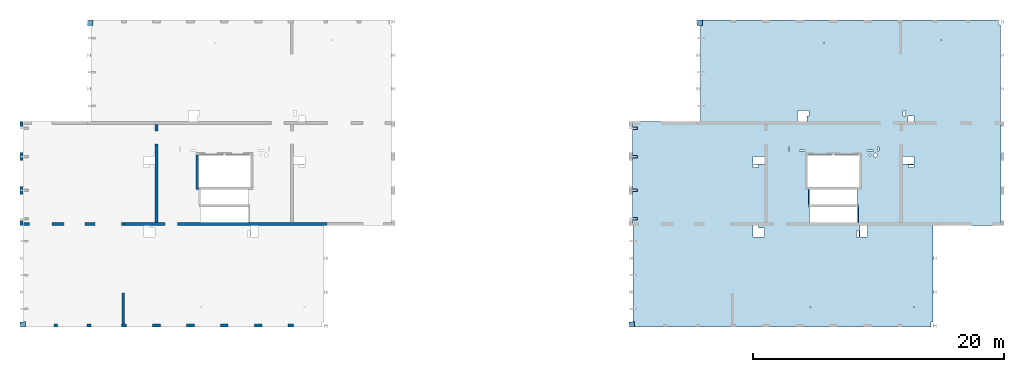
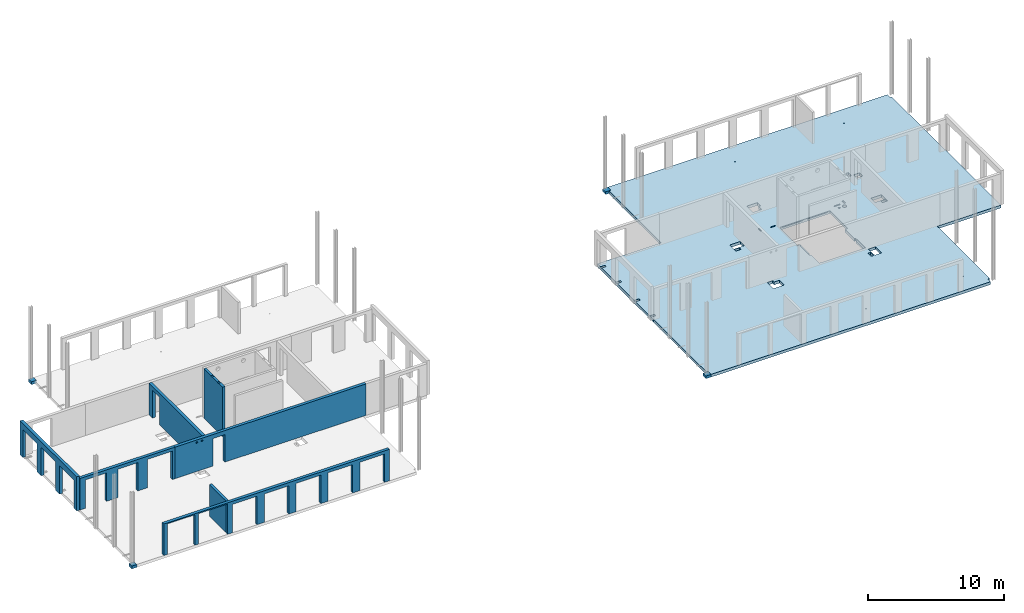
# One storey, part 6 of 10: 7 walls, 5 slabs, 53 openings.
"""IFC2X3 building model written with IfcOpenShell, lengths in millimetres."""

from ifc_helpers import new_model, entity, si_unit, converted_unit, derived_unit, direction, frame, frame_2d, origin, origin_2d_with_axis, place, context, subcontext, project, spatial, polyline, rectangle, circle, outline, extrude, material, layer, layer_set, layer_usage, type_object, element, save


model = new_model("IFC2X3")

# Units and contexts
model_context = context("Model", 3, precision=0.01, world=origin(), true_north=direction((6.12303176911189e-17, 1.0)))
body_context = subcontext(model_context, "Body", "Model", "MODEL_VIEW")
ifc_project = project(units=[si_unit("LENGTHUNIT", "METRE", prefix="MILLI"), si_unit("AREAUNIT", "SQUARE_METRE"), si_unit("VOLUMEUNIT", "CUBIC_METRE"), converted_unit("PLANEANGLEUNIT", "DEGREE", entity("IfcRatioMeasure", 0.0174532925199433), si_unit("PLANEANGLEUNIT", "RADIAN"), dimensions=[0, 0, 0, 0, 0, 0, 0]), si_unit("MASSUNIT", "GRAM", prefix="KILO"), derived_unit("MASSDENSITYUNIT", [(si_unit("MASSUNIT", "GRAM", prefix="KILO"), 1), (si_unit("LENGTHUNIT", "METRE"), -3)]), si_unit("TIMEUNIT", "SECOND"), si_unit("FREQUENCYUNIT", "HERTZ"), si_unit("THERMODYNAMICTEMPERATUREUNIT", "DEGREE_CELSIUS"), derived_unit("THERMALTRANSMITTANCEUNIT", [(si_unit("MASSUNIT", "GRAM", prefix="KILO"), 1), (si_unit("THERMODYNAMICTEMPERATUREUNIT", "KELVIN"), -1), (si_unit("TIMEUNIT", "SECOND"), -3)]), derived_unit("VOLUMETRICFLOWRATEUNIT", [(si_unit("LENGTHUNIT", "METRE"), 3), (si_unit("TIMEUNIT", "SECOND"), -1)]), si_unit("ELECTRICCURRENTUNIT", "AMPERE"), si_unit("ELECTRICVOLTAGEUNIT", "VOLT"), si_unit("POWERUNIT", "WATT"), si_unit("FORCEUNIT", "NEWTON", prefix="KILO"), si_unit("ILLUMINANCEUNIT", "LUX"), si_unit("LUMINOUSFLUXUNIT", "LUMEN"), si_unit("LUMINOUSINTENSITYUNIT", "CANDELA"), derived_unit("USERDEFINED", [(si_unit("MASSUNIT", "GRAM", prefix="KILO"), -1), (si_unit("LENGTHUNIT", "METRE"), -2), (si_unit("TIMEUNIT", "SECOND"), 3), (si_unit("LUMINOUSFLUXUNIT", "LUMEN"), 1)]), derived_unit("LINEARVELOCITYUNIT", [(si_unit("LENGTHUNIT", "METRE"), 1), (si_unit("TIMEUNIT", "SECOND"), -1)]), si_unit("PRESSUREUNIT", "PASCAL"), derived_unit("USERDEFINED", [(si_unit("LENGTHUNIT", "METRE"), -2), (si_unit("MASSUNIT", "GRAM", prefix="KILO"), 1), (si_unit("TIMEUNIT", "SECOND"), -2)])], contexts=[model_context])

# Site, building, storey
site_placement = place(None, origin())
site = spatial("IfcSite", under=ifc_project, at=site_placement, Name="Default", CompositionType="ELEMENT")
building_placement = place(site_placement, origin())
building = spatial("IfcBuilding", under=site, at=building_placement, Name="niet gebruiken", CompositionType="ELEMENT")
storey_placement = place(building_placement, frame((0.0, 0.0, 63090.0)))
storey = spatial("IfcBuildingStorey", under=building, at=storey_placement, Name="21 eenentwintigste verdieping", CompositionType="ELEMENT", Elevation=63090.0)

# Slab, openings
ifc_material_1 = material(Name="NLRS_f2_beton ihwg")
ifc_layer_1 = layer(ifc_material_1, 250.0)
ifc_layer_set_1 = layer_set([ifc_layer_1], Name="Floor:NLRS_23.21_FL_beton ihwg d=250_gen")
ifc_layer_usage_1 = layer_usage(ifc_layer_set_1, "AXIS3", "POSITIVE", 0.0)
slab_1_placement = place(storey_placement, frame((75770.0, 28756.0, -340.0)))
slab_1 = element("IfcSlab", 1, at=slab_1_placement, inside=storey, material=ifc_layer_usage_1, Name="Floor:NLRS_23.21_FL_beton ihwg d=250_gen", ObjectType="Floor:NLRS_23.21_FL_beton ihwg d=250_gen", PredefinedType="FLOOR", context=body_context, shape_type="SweptSolid", body=[
    extrude(outline(polyline([(9130.0, 12250.0), (-14530.0, 12250.0), (-14530.0, 11840.0), (-14670.0000329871, 11840.0), (-14670.0000329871, 4150.0), (-14690.0, 4150.0), (-14690.0, -4150.0), (-9290.0, -4150.0), (-9290.0, -11840.0), (-9130.0, -11840.0), (-9130.0, -12250.0), (14530.0, -12250.0), (14530.0, -11820.0), (14670.0, -11820.0), (14670.0, -4040.0), (14690.0, -4040.0), (14690.0, 4150.0), (9290.0, 4150.0), (9290.0, 11820.0), (9130.0, 11820.0), (9130.0, 12250.0)])), frame((14690.0, 12250.0, 250.0), z_axis=(0.0, 0.0, -1.0), x_axis=(-1.0, 0.0, 0.0)), (0.0, 0.0, 1.0), 250.000000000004),
])
opening_1_placement = place(storey_placement, frame((75770.0, 28756.0, -340.0)))
element("IfcOpeningElement", 2, at=opening_1_placement, cuts=slab_1, ObjectType="Opening", context=body_context, shape_type="SweptSolid", body=[
    extrude(circle(Radius=37.5, at=frame_2d((-7740.0, -10650.0), x_axis=(1.0, 0.0))), frame((14690.0, 12250.0, 250.0), z_axis=(0.0, 0.0, -1.0), x_axis=(-1.0, 0.0, 0.0)), (0.0, 0.0, 1.0), 250.000000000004),
])
opening_2_placement = place(storey_placement, frame((75770.0, 28756.0, -340.0)))
element("IfcOpeningElement", 3, at=opening_2_placement, cuts=slab_1, ObjectType="Opening", context=body_context, shape_type="SweptSolid", body=[
    extrude(circle(Radius=37.5, at=frame_2d((-9940.0, 10650.0), x_axis=(1.0, 0.0))), frame((14690.0, 12250.0, 250.0), z_axis=(0.0, 0.0, -1.0), x_axis=(-1.0, 0.0, 0.0)), (0.0, 0.0, 1.0), 250.000000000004),
])
opening_3_placement = place(storey_placement, frame((75770.0, 28756.0, -340.0)))
element("IfcOpeningElement", 4, at=opening_3_placement, cuts=slab_1, ObjectType="Opening", context=body_context, shape_type="SweptSolid", body=[
    extrude(circle(Radius=37.5, at=frame_2d((-590.0, 10400.0), x_axis=(1.0, 0.0))), frame((14690.0, 12250.0, 250.0), z_axis=(0.0, 0.0, -1.0), x_axis=(-1.0, 0.0, 0.0)), (0.0, 0.0, 1.0), 250.000000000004),
])
opening_4_placement = place(storey_placement, frame((75770.0, 28756.0, -340.0)))
element("IfcOpeningElement", 5, at=opening_4_placement, cuts=slab_1, ObjectType="Opening", context=body_context, shape_type="SweptSolid", body=[
    extrude(circle(Radius=37.5, at=frame_2d((510.0, -10650.0), x_axis=(1.0, 0.0))), frame((14690.0, 12250.0, 250.0), z_axis=(0.0, 0.0, -1.0), x_axis=(-1.0, 0.0, 0.0)), (0.0, 0.0, 1.0), 250.000000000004),
])
opening_5_placement = place(slab_1_placement, origin())
element("IfcOpeningElement", 6, at=opening_5_placement, cuts=slab_1, ObjectType="Opening", context=body_context, shape_type="SweptSolid", body=[
    extrude(rectangle(XDim=109.999999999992, YDim=1220.0, at=origin_2d_with_axis()), frame((14074.999934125, 10380.0, 210.0)), (0.0, 0.0, 1.0), 39.9999999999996),
])
opening_6_placement = place(slab_1_placement, origin())
element("IfcOpeningElement", 7, at=opening_6_placement, cuts=slab_1, ObjectType="Opening", context=body_context, shape_type="SweptSolid", body=[
    extrude(rectangle(XDim=109.999999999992, YDim=1220.0, at=origin_2d_with_axis()), frame((17985.0, 8960.0, 210.0)), (0.0, 0.0, 1.0), 39.9999999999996),
])
opening_7_placement = place(slab_1_placement, origin())
element("IfcOpeningElement", 8, at=opening_7_placement, cuts=slab_1, ObjectType="Opening", context=body_context, shape_type="SweptSolid", body=[
    extrude(rectangle(XDim=199.999999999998, YDim=400.000000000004, at=origin_2d_with_axis()), frame((200.0, 13600.0, 220.0), z_axis=(0.0, 0.0, 1.0), x_axis=(0.0, -1.0, 0.0)), (0.0, 0.0, 1.0), 30.0000000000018),
])
opening_8_placement = place(slab_1_placement, origin())
element("IfcOpeningElement", 9, at=opening_8_placement, cuts=slab_1, ObjectType="Opening", context=body_context, shape_type="SweptSolid", body=[
    extrude(rectangle(XDim=199.999999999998, YDim=400.000000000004, at=origin_2d_with_axis()), frame((200.0, 10900.0, 220.0), z_axis=(0.0, 0.0, 1.0), x_axis=(0.0, -1.0, 0.0)), (0.0, 0.0, 1.0), 30.0000000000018),
])
opening_9_placement = place(slab_1_placement, origin())
element("IfcOpeningElement", 10, at=opening_9_placement, cuts=slab_1, ObjectType="Opening", context=body_context, shape_type="SweptSolid", body=[
    extrude(rectangle(XDim=200.000000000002, YDim=400.000000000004, at=origin_2d_with_axis()), frame((200.0, 8630.0, 220.0), z_axis=(0.0, 0.0, 1.0), x_axis=(0.0, -1.0, 0.0)), (0.0, 0.0, 1.0), 30.0000000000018),
])
opening_10_placement = place(slab_1_placement, origin())
element("IfcOpeningElement", 11, at=opening_10_placement, cuts=slab_1, ObjectType="Opening", context=body_context, shape_type="SweptSolid", body=[
    extrude(rectangle(XDim=400.000000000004, YDim=199.999999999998, at=origin_2d_with_axis()), frame((200.0, 15870.0, 220.0)), (0.0, 0.0, 1.0), 30.0000000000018),
])
opening_11_placement = place(slab_1_placement, origin())
element("IfcOpeningElement", 12, at=opening_11_placement, cuts=slab_1, ObjectType="Opening", context=body_context, shape_type="SweptSolid", body=[
    extrude(rectangle(XDim=900.000000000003, YDim=730.000000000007, at=origin_2d_with_axis()), frame((13530.0, 16850.0, 0.0), z_axis=(0.0, 0.0, 1.0), x_axis=(0.0, 1.0, 0.0)), (0.0, 0.0, 1.0), 250.000000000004),
])
opening_12_placement = place(slab_1_placement, origin())
element("IfcOpeningElement", 13, at=opening_12_placement, cuts=slab_1, ObjectType="Opening", context=body_context, shape_type="SweptSolid", body=[
    extrude(rectangle(XDim=169.999999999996, YDim=450.000000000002, at=origin_2d_with_axis()), frame((13980.0, 17075.0, 0.0), z_axis=(0.0, 0.0, 1.0), x_axis=(-1.0, 0.0, 0.0)), (0.0, 0.0, 1.0), 250.000000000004),
])
opening_13_placement = place(slab_1_placement, origin())
element("IfcOpeningElement", 14, at=opening_13_placement, cuts=slab_1, ObjectType="Opening", context=body_context, shape_type="SweptSolid", body=[
    extrude(rectangle(XDim=900.000000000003, YDim=700.000000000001, at=origin_2d_with_axis()), frame((10055.0, 7550.0, 0.0), z_axis=(0.0, 0.0, 1.0), x_axis=(-1.0, 0.0, 0.0)), (0.0, 0.0, 1.0), 250.000000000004),
])
opening_14_placement = place(slab_1_placement, origin())
element("IfcOpeningElement", 15, at=opening_14_placement, cuts=slab_1, ObjectType="Opening", context=body_context, shape_type="SweptSolid", body=[
    extrude(rectangle(XDim=200.000000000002, YDim=450.000000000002, at=origin_2d_with_axis()), frame((9830.0, 8000.0, 0.0), z_axis=(0.0, 0.0, 1.0), x_axis=(0.0, -1.0, 0.0)), (0.0, 0.0, 1.0), 250.000000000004),
])
opening_15_placement = place(slab_1_placement, origin())
element("IfcOpeningElement", 16, at=opening_15_placement, cuts=slab_1, ObjectType="Opening", context=body_context, shape_type="SweptSolid", body=[
    extrude(rectangle(XDim=900.000000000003, YDim=600.000000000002, at=origin_2d_with_axis()), frame((10055.0, 13330.0, 0.0), z_axis=(0.0, 0.0, 1.0), x_axis=(-1.0, 0.0, 0.0)), (0.0, 0.0, 1.0), 250.000000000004),
])
opening_16_placement = place(slab_1_placement, origin())
element("IfcOpeningElement", 17, at=opening_16_placement, cuts=slab_1, ObjectType="Opening", context=body_context, shape_type="SweptSolid", body=[
    extrude(rectangle(XDim=450.000000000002, YDim=500.000000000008, at=origin_2d_with_axis()), frame((22205.0, 16625.0, 0.0), z_axis=(0.0, 0.0, 1.0), x_axis=(0.0, 1.0, 0.0)), (0.0, 0.0, 1.0), 250.000000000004),
])
opening_17_placement = place(slab_1_placement, origin())
element("IfcOpeningElement", 18, at=opening_17_placement, cuts=slab_1, ObjectType="Opening", context=body_context, shape_type="SweptSolid", body=[
    extrude(rectangle(XDim=900.000000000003, YDim=600.000000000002, at=origin_2d_with_axis()), frame((18459.9818996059, 7650.0, 0.0), z_axis=(0.0, 0.0, 1.0), x_axis=(0.0, 1.0, 0.0)), (0.0, 0.0, 1.0), 250.000000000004),
])
opening_18_placement = place(slab_1_placement, origin())
element("IfcOpeningElement", 19, at=opening_18_placement, cuts=slab_1, ObjectType="Opening", context=body_context, shape_type="SweptSolid", body=[
    extrude(rectangle(XDim=900.000000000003, YDim=600.000000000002, at=origin_2d_with_axis()), frame((22005.0, 13330.0, 0.0), z_axis=(0.0, 0.0, 1.0), x_axis=(-1.0, 0.0, 0.0)), (0.0, 0.0, 1.0), 250.000000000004),
])
opening_19_placement = place(slab_1_placement, origin())
element("IfcOpeningElement", 20, at=opening_19_placement, cuts=slab_1, ObjectType="Opening", context=body_context, shape_type="SweptSolid", body=[
    extrude(rectangle(XDim=1760.00000000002, YDim=23.0000000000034, at=origin_2d_with_axis()), frame((14974.9998491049, 13751.4999999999, 180.0)), (0.0, 0.0, 1.0), 40.0000000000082),
])
opening_20_placement = place(slab_1_placement, origin())
element("IfcOpeningElement", 21, at=opening_20_placement, cuts=slab_1, ObjectType="Opening", context=body_context, shape_type="SweptSolid", body=[
    extrude(rectangle(XDim=1760.0, YDim=23.0000000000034, at=origin_2d_with_axis()), frame((17084.999849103, 13751.4999999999, 180.0)), (0.0, 0.0, 1.0), 40.0000000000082),
])
opening_21_placement = place(slab_1_placement, origin())
element("IfcOpeningElement", 22, at=opening_21_placement, cuts=slab_1, ObjectType="Opening", context=body_context, shape_type="SweptSolid", body=[
    extrude(rectangle(XDim=99.9999999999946, YDim=340.000000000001, at=origin_2d_with_axis()), frame((12485.0, 14210.0, 0.0), z_axis=(0.0, 0.0, 1.0), x_axis=(-1.0, 0.0, 0.0)), (0.0, 0.0, 1.0), 250.000000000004),
])
opening_22_placement = place(slab_1_placement, origin())
element("IfcOpeningElement", 23, at=opening_22_placement, cuts=slab_1, ObjectType="Opening", context=body_context, shape_type="SweptSolid", body=[
    extrude(rectangle(XDim=100.000000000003, YDim=440.000000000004, at=origin_2d_with_axis()), frame((13535.0, 14090.0, 0.0), z_axis=(0.0, 0.0, 1.0), x_axis=(0.0, -1.0, 0.0)), (0.0, 0.0, 1.0), 250.000000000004),
])
opening_23_placement = place(slab_1_placement, origin())
element("IfcOpeningElement", 24, at=opening_23_placement, cuts=slab_1, ObjectType="Opening", context=body_context, shape_type="SweptSolid", body=[
    extrude(rectangle(XDim=99.9999999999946, YDim=340.000000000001, at=origin_2d_with_axis()), frame((19595.0, 14210.0, 0.0), z_axis=(0.0, 0.0, 1.0), x_axis=(-1.0, 0.0, 0.0)), (0.0, 0.0, 1.0), 250.000000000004),
])
opening_24_placement = place(slab_1_placement, origin())
element("IfcOpeningElement", 25, at=opening_24_placement, cuts=slab_1, ObjectType="Opening", context=body_context, shape_type="SweptSolid", body=[
    extrude(rectangle(XDim=100.000000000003, YDim=489.999999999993, at=origin_2d_with_axis()), frame((18955.0, 14090.0, 0.0), z_axis=(0.0, 0.0, 1.0), x_axis=(0.0, -1.0, 0.0)), (0.0, 0.0, 1.0), 250.000000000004),
])
opening_25_placement = place(slab_1_placement, origin())
element("IfcOpeningElement", 26, at=opening_25_placement, cuts=slab_1, ObjectType="Opening", context=body_context, shape_type="SweptSolid", body=[
    extrude(rectangle(XDim=220.000000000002, YDim=450.000000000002, at=origin_2d_with_axis()), frame((21665.0, 17075.0, 0.0), z_axis=(0.0, 0.0, 1.0), x_axis=(-1.0, 0.0, 0.0)), (0.0, 0.0, 1.0), 250.000000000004),
])
opening_26_placement = place(slab_1_placement, origin())
element("IfcOpeningElement", 27, at=opening_26_placement, cuts=slab_1, ObjectType="Opening", context=body_context, shape_type="SweptSolid", body=[
    extrude(rectangle(XDim=220.000000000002, YDim=450.000000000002, at=origin_2d_with_axis()), frame((22230.0, 12840.0, 0.0), z_axis=(0.0, 0.0, 1.0), x_axis=(0.0, -1.0, 0.0)), (0.0, 0.0, 1.0), 250.000000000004),
])
opening_27_placement = place(slab_1_placement, origin())
element("IfcOpeningElement", 28, at=opening_27_placement, cuts=slab_1, ObjectType="Opening", context=body_context, shape_type="SweptSolid", body=[
    extrude(rectangle(XDim=220.000000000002, YDim=450.000000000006, at=origin_2d_with_axis()), frame((17970.0, 7425.0, 0.0)), (0.0, 0.0, 1.0), 250.000000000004),
])
opening_28_placement = place(slab_1_placement, origin())
element("IfcOpeningElement", 29, at=opening_28_placement, cuts=slab_1, ObjectType="Opening", context=body_context, shape_type="SweptSolid", body=[
    extrude(rectangle(XDim=230.0, YDim=450.000000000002, at=origin_2d_with_axis()), frame((9830.0000865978, 12845.0002270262, 0.0), z_axis=(0.0, 0.0, 1.0), x_axis=(0.0, -1.0, 0.0)), (0.0, 0.0, 1.0), 250.000000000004),
])
opening_29_placement = place(slab_1_placement, origin())
element("IfcOpeningElement", 30, at=opening_29_placement, cuts=slab_1, ObjectType="Opening", context=body_context, shape_type="SweptSolid", body=[
    extrude(circle(Radius=80.0, at=origin_2d_with_axis()), frame((18930.0, 13720.0, 0.0)), (0.0, 0.0, 1.0), 250.000000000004),
])
opening_30_placement = place(slab_1_placement, origin())
element("IfcOpeningElement", 31, at=opening_30_placement, cuts=slab_1, ObjectType="Opening", context=body_context, shape_type="SweptSolid", body=[
    extrude(circle(Radius=157.5, at=origin_2d_with_axis()), frame((19380.0, 13720.0, 0.0)), (0.0, 0.0, 1.0), 250.000000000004),
])
opening_31_placement = place(slab_1_placement, frame((16030.0, 10378.7499999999, 250.0)))
element("IfcOpeningElement", 32, at=opening_31_placement, cuts=slab_1, Name="Floor:NLRS_23.21_FL_beton ihwg d=250_gen:2", ObjectType="Opening", context=body_context, shape_type="SweptSolid", body=[
    extrude(outline(polyline([(-751.250000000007, 1899.99999180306), (-751.250000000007, 2135.00002468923), (-3361.24999999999, 2135.00002468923), (-3361.24999999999, -2134.99997530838), (-751.250000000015, -2134.99997530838), (-751.250000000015, -1900.00004118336), (608.75, -1900.00004118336), (608.75, -1999.99997531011), (808.750000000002, -1999.99997531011), (808.750000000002, -1900.00004118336), (2028.75, -1900.00004118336), (2028.75, 1899.99999180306), (808.750000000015, 1899.99999180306), (808.750000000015, 2000.00002468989), (608.750000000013, 2000.00002468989), (608.750000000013, 1899.99999180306), (-751.250000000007, 1899.99999180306)])), frame((0.0, 0.0, 0.0), z_axis=(0.0, 0.0, 1.0), x_axis=(0.0, -1.0, 0.0)), (0.0, 0.0, -1.0), 250.000000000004),
])

# Slabs
ifc_layer_usage_2 = layer_usage(ifc_layer_set_1, "AXIS3", "POSITIVE", 0.0)
slab_2_placement = place(storey_placement, origin())
element("IfcSlab", 33, at=slab_2_placement, inside=storey, material=ifc_layer_usage_2, Name="Floor:NLRS_23.21_FL_beton ihwg d=250_gen", ObjectType="Floor:NLRS_23.21_FL_beton ihwg d=250_gen", PredefinedType="FLOOR", context=body_context, shape_type="SweptSolid", body=[
    extrude(outline(polyline([(-280.0, -240.0), (130.0, -240.0), (130.0, 50.0), (150.0, 50.0), (150.0, 190.0), (-280.0, 190.0), (-280.0, -240.0)])), frame((27140.0, 29036.0, -90.0), z_axis=(0.0, 0.0, -1.0), x_axis=(0.0, 1.0, 0.0)), (0.0, 0.0, 1.0), 250.000000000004),
])
ifc_layer_usage_3 = layer_usage(ifc_layer_set_1, "AXIS3", "POSITIVE", 0.0)
slab_3_placement = place(storey_placement, origin())
element("IfcSlab", 34, at=slab_3_placement, inside=storey, material=ifc_layer_usage_3, Name="Floor:NLRS_23.21_FL_beton ihwg d=250_gen", ObjectType="Floor:NLRS_23.21_FL_beton ihwg d=250_gen", PredefinedType="FLOOR", context=body_context, shape_type="SweptSolid", body=[
    extrude(outline(polyline([(-280.0, -240.0), (130.0, -240.0), (130.0, 50.0), (150.0, 50.0), (150.0, 190.0), (-280.0, 190.0), (-280.0, -240.0)])), frame((75740.0, 29036.0, -90.0), z_axis=(0.0, 0.0, -1.0), x_axis=(0.0, 1.0, 0.0)), (0.0, 0.0, 1.0), 250.000000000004),
])
ifc_layer_usage_4 = layer_usage(ifc_layer_set_1, "AXIS3", "POSITIVE", 0.0)
slab_4_placement = place(storey_placement, origin())
element("IfcSlab", 35, at=slab_4_placement, inside=storey, material=ifc_layer_usage_4, Name="Floor:NLRS_23.21_FL_beton ihwg d=250_gen", ObjectType="Floor:NLRS_23.21_FL_beton ihwg d=250_gen", PredefinedType="FLOOR", context=body_context, shape_type="SweptSolid", body=[
    extrude(rectangle(XDim=430.00000000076, YDim=429.999999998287, at=frame_2d((4.33431068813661e-12, 2.17426077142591e-12), x_axis=(1.0, 0.0))), frame((32515.0, 53041.0, -90.0), z_axis=(0.0, 0.0, -1.0), x_axis=(0.0, 1.0, 0.0)), (0.0, 0.0, 1.0), 250.000000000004),
])
ifc_layer_usage_5 = layer_usage(ifc_layer_set_1, "AXIS3", "POSITIVE", 0.0)
slab_5_placement = place(storey_placement, origin())
element("IfcSlab", 36, at=slab_5_placement, inside=storey, material=ifc_layer_usage_5, Name="Floor:NLRS_23.21_FL_beton ihwg d=250_gen", ObjectType="Floor:NLRS_23.21_FL_beton ihwg d=250_gen", PredefinedType="FLOOR", context=body_context, shape_type="SweptSolid", body=[
    extrude(rectangle(XDim=430.00000000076, YDim=429.999999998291, at=frame_2d((-4.33431068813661e-12, -8.66862137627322e-12), x_axis=(1.0, 0.0))), frame((81115.0, 53041.0, -90.0), z_axis=(0.0, 0.0, -1.0), x_axis=(0.0, 1.0, 0.0)), (0.0, 0.0, 1.0), 250.000000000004),
])

# Wall, opening
ifc_layer_2 = layer(ifc_material_1, 250.0)
ifc_layer_set_2 = layer_set([ifc_layer_2], Name="Basic Wall:NLRS_22.21_WA_beton ihwg d=250_gen")
ifc_layer_usage_6 = layer_usage(ifc_layer_set_2, "AXIS2", "NEGATIVE", 125.0)
wall_type_1 = type_object("IfcWallType", Name="Basic Wall:NLRS_22.21_WA_beton ihwg d=250_gen", PredefinedType="STANDARD", material=ifc_layer_set_2)
wall_1_placement = place(storey_placement, frame((37800.0, 44906.0, -90.0), z_axis=(0.0, 0.0, 1.0), x_axis=(0.0, -1.0, 0.0)))
wall_1 = element("IfcWallStandardCase", 37, at=wall_1_placement, inside=storey, type_object=wall_type_1, material=ifc_layer_usage_6, Name="Basic Wall:NLRS_22.21_WA_beton ihwg d=250_gen", ObjectType="Basic Wall:NLRS_22.21_WA_beton ihwg d=250_gen", context=body_context, shape_type="SweptSolid", body=[
    extrude(rectangle(XDim=7799.99999999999, YDim=250.000000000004, at=frame_2d((3900.0, 0.0), x_axis=(-1.0, 0.0))), origin(), (0.0, 0.0, 1.0), 2820.00000000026),
])
opening_32_placement = place(wall_1_placement, origin())
element("IfcOpeningElement", 38, at=opening_32_placement, cuts=wall_1, Name="Basic Wall:NLRS_22.21_WA_beton ihwg d=250_gen", ObjectType="Opening", context=body_context, shape_type="SweptSolid", body=[
    extrude(rectangle(XDim=2470.0, YDim=1006.0, at=frame_2d((4.43378667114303e-12, 0.0), x_axis=(1.0, 0.0))), frame((1027.0, -1649.0, 1235.0), z_axis=(0.0, 1.0, 0.0), x_axis=(0.0, 0.0, 1.0)), (0.0, 0.0, 1.0), 3048.0),
])

# Wall, openings
ifc_layer_usage_7 = layer_usage(ifc_layer_set_2, "AXIS2", "NEGATIVE", 125.0)
wall_2_placement = place(storey_placement, frame((27170.0, 36981.0, -90.0)))
wall_2 = element("IfcWallStandardCase", 39, at=wall_2_placement, inside=storey, type_object=wall_type_1, material=ifc_layer_usage_7, Name="Basic Wall:NLRS_22.21_WA_beton ihwg d=250_gen", ObjectType="Basic Wall:NLRS_22.21_WA_beton ihwg d=250_gen", context=body_context, shape_type="SweptSolid", body=[
    extrude(rectangle(XDim=8060.0, YDim=250.000000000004, at=frame_2d((4030.0, 0.0), x_axis=(-1.0, 0.0))), origin(), (0.0, 0.0, 1.0), 2820.00000000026),
])
opening_33_placement = place(wall_2_placement, origin())
element("IfcOpeningElement", 40, at=opening_33_placement, cuts=wall_2, Name="Basic Wall:NLRS_22.21_WA_beton ihwg d=250_gen", ObjectType="Opening", context=body_context, shape_type="SweptSolid", body=[
    extrude(rectangle(XDim=2540.0, YDim=2110.0, at=frame_2d((-4.32009983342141e-12, -2.1600499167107e-12), x_axis=(1.0, 0.0))), frame((6775.0, -1649.0, 1270.0), z_axis=(0.0, 1.0, 0.0), x_axis=(0.0, 0.0, 1.0)), (0.0, 0.0, 1.0), 3048.0),
])
opening_34_placement = place(wall_2_placement, origin())
element("IfcOpeningElement", 41, at=opening_34_placement, cuts=wall_2, Name="Basic Wall:NLRS_22.21_WA_beton ihwg d=250_gen", ObjectType="Opening", context=body_context, shape_type="SweptSolid", body=[
    extrude(rectangle(XDim=2540.0, YDim=1690.0, at=frame_2d((-4.32009983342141e-12, -2.1600499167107e-12), x_axis=(1.0, 0.0))), frame((4075.0, -1649.0, 1270.0), z_axis=(0.0, 1.0, 0.0), x_axis=(0.0, 0.0, 1.0)), (0.0, 0.0, 1.0), 3048.0),
])
opening_35_placement = place(wall_2_placement, origin())
element("IfcOpeningElement", 42, at=opening_35_placement, cuts=wall_2, Name="Basic Wall:NLRS_22.21_WA_beton ihwg d=250_gen", ObjectType="Opening", context=body_context, shape_type="SweptSolid", body=[
    extrude(rectangle(XDim=2540.0, YDim=1765.0, at=frame_2d((-4.32009983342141e-12, 0.0), x_axis=(1.0, 0.0))), frame((1382.5, -1649.0, 1270.0), z_axis=(0.0, 1.0, 0.0), x_axis=(0.0, 0.0, 1.0)), (0.0, 0.0, 1.0), 3048.0),
])
opening_36_placement = place(wall_2_placement, origin())
element("IfcOpeningElement", 43, at=opening_36_placement, cuts=wall_2, Name="Basic Wall:NLRS_22.21_WA_beton ihwg d=250_gen", ObjectType="Opening", context=body_context, shape_type="SweptSolid", body=[
    extrude(circle(Radius=80.0, at=origin_2d_with_axis()), frame((9905.00025861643, -125.0, 2590.0), z_axis=(0.0, 1.0, 0.0), x_axis=(1.0, 0.0, 0.0)), (0.0, 0.0, 1.0), 249.999999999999),
])
opening_37_placement = place(wall_2_placement, origin())
element("IfcOpeningElement", 44, at=opening_37_placement, cuts=wall_2, Name="Basic Wall:NLRS_22.21_WA_beton ihwg d=250_gen", ObjectType="Opening", context=body_context, shape_type="SweptSolid", body=[
    extrude(circle(Radius=80.0, at=origin_2d_with_axis()), frame((10355.0002586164, -125.0, 2590.0), z_axis=(0.0, 1.0, 0.0), x_axis=(1.0, 0.0, 0.0)), (0.0, 0.0, 1.0), 249.999999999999),
])

ifc_layer_usage_8 = layer_usage(ifc_layer_set_2, "AXIS2", "NEGATIVE", 125.0)
wall_3_placement = place(storey_placement, frame((35230.0, 36981.0, -90.0)))
wall_3 = element("IfcWallStandardCase", 45, at=wall_3_placement, inside=storey, type_object=wall_type_1, material=ifc_layer_usage_8, Name="Basic Wall:NLRS_22.21_WA_beton ihwg d=250_gen", ObjectType="Basic Wall:NLRS_22.21_WA_beton ihwg d=250_gen", context=body_context, shape_type="SweptSolid", body=[
    extrude(rectangle(XDim=16169.9999999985, YDim=250.000000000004, at=frame_2d((8084.99999999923, 0.0), x_axis=(-1.0, 0.0))), origin(), (0.0, 0.0, 1.0), 2820.00000000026),
])
opening_38_placement = place(wall_3_placement, origin())
element("IfcOpeningElement", 46, at=opening_38_placement, cuts=wall_3, Name="Basic Wall:NLRS_22.21_WA_beton ihwg d=250_gen", ObjectType="Opening", context=body_context, shape_type="SweptSolid", body=[
    extrude(rectangle(XDim=2470.0, YDim=1006.0, at=frame_2d((4.43378667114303e-12, -2.1600499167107e-12), x_axis=(1.0, 0.0))), frame((3722.0, -1649.0, 1235.0), z_axis=(0.0, 1.0, 0.0), x_axis=(0.0, 0.0, 1.0)), (0.0, 0.0, 1.0), 3048.0),
])
opening_39_placement = place(wall_3_placement, origin())
element("IfcOpeningElement", 47, at=opening_39_placement, cuts=wall_3, Name="Basic Wall:NLRS_22.21_WA_beton ihwg d=250_gen", ObjectType="Opening", context=body_context, shape_type="SweptSolid", body=[
    extrude(circle(Radius=80.0, at=origin_2d_with_axis()), frame((1845.00025861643, -125.0, 2590.0), z_axis=(0.0, 1.0, 0.0), x_axis=(1.0, 0.0, 0.0)), (0.0, 0.0, 1.0), 249.999999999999),
])
opening_40_placement = place(wall_3_placement, origin())
element("IfcOpeningElement", 48, at=opening_40_placement, cuts=wall_3, Name="Basic Wall:NLRS_22.21_WA_beton ihwg d=250_gen", ObjectType="Opening", context=body_context, shape_type="SweptSolid", body=[
    extrude(circle(Radius=80.0, at=origin_2d_with_axis()), frame((2295.00025861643, -125.0, 2590.0), z_axis=(0.0, 1.0, 0.0), x_axis=(1.0, 0.0, 0.0)), (0.0, 0.0, 1.0), 249.999999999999),
])

ifc_material_2 = material(Name="NLRS_f2_beton prefab")
ifc_layer_3 = layer(ifc_material_2, 250.0)
ifc_layer_set_3 = layer_set([ifc_layer_3], Name="Basic Wall:NLRS_21.21_WA_beton prefab d=250_gen")
ifc_layer_usage_9 = layer_usage(ifc_layer_set_3, "AXIS2", "NEGATIVE", 125.0)
wall_type_2 = type_object("IfcWallType", Name="Basic Wall:NLRS_21.21_WA_beton prefab d=250_gen", PredefinedType="STANDARD", material=ifc_layer_set_3)
wall_4_placement = place(storey_placement, frame((27025.0, 45156.0, -70.0), z_axis=(0.0, 0.0, 1.0), x_axis=(0.0, -1.0, 0.0)))
wall_4 = element("IfcWallStandardCase", 49, at=wall_4_placement, inside=storey, type_object=wall_type_2, material=ifc_layer_usage_9, Name="Basic Wall:NLRS_21.21_WA_beton prefab d=250_gen", ObjectType="Basic Wall:NLRS_21.21_WA_beton prefab d=250_gen", context=body_context, shape_type="SweptSolid", body=[
    extrude(rectangle(XDim=8299.99999999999, YDim=250.000000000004, at=frame_2d((4150.0, 0.0), x_axis=(-1.0, 0.0))), origin(), (0.0, 0.0, 1.0), 3050.0),
])
opening_41_placement = place(wall_4_placement, origin())
element("IfcOpeningElement", 50, at=opening_41_placement, cuts=wall_4, Name="Basic Wall:NLRS_21.21_WA_beton prefab d=250_gen", ObjectType="Opening", context=body_context, shape_type="SweptSolid", body=[
    extrude(rectangle(XDim=2540.0, YDim=2080.0, at=frame_2d((0.0, 4.32009983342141e-12), x_axis=(0.0, 1.0))), frame((1450.0, -1399.0, 1250.0), z_axis=(0.0, 1.0, 0.0), x_axis=(-1.0, 0.0, 0.0)), (0.0, 0.0, 1.0), 3048.0),
])
opening_42_placement = place(wall_4_placement, origin())
element("IfcOpeningElement", 51, at=opening_42_placement, cuts=wall_4, Name="Basic Wall:NLRS_21.21_WA_beton prefab d=250_gen", ObjectType="Opening", context=body_context, shape_type="SweptSolid", body=[
    extrude(rectangle(XDim=2540.0, YDim=2080.0, at=frame_2d((0.0, 4.32009983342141e-12), x_axis=(0.0, 1.0))), frame((4150.0, -1399.0, 1250.0), z_axis=(0.0, 1.0, 0.0), x_axis=(-1.0, 0.0, 0.0)), (0.0, 0.0, 1.0), 3048.0),
])
opening_43_placement = place(wall_4_placement, origin())
element("IfcOpeningElement", 52, at=opening_43_placement, cuts=wall_4, Name="Basic Wall:NLRS_21.21_WA_beton prefab d=250_gen", ObjectType="Opening", context=body_context, shape_type="SweptSolid", body=[
    extrude(rectangle(XDim=2540.0, YDim=2080.0, at=frame_2d((0.0, 4.32009983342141e-12), x_axis=(0.0, 1.0))), frame((6850.0, -1399.0, 1250.0), z_axis=(0.0, 1.0, 0.0), x_axis=(-1.0, 0.0, 0.0)), (0.0, 0.0, 1.0), 3048.0),
])

ifc_layer_4 = layer(ifc_material_2, 200.0)
ifc_layer_set_4 = layer_set([ifc_layer_4], Name="Basic Wall:NLRS_22.21_WA_beton prefab d=200_gen")
ifc_layer_usage_10 = layer_usage(ifc_layer_set_4, "AXIS2", "NEGATIVE", 100.0)
wall_type_3 = type_object("IfcWallType", Name="Basic Wall:NLRS_22.21_WA_beton prefab d=200_gen", PredefinedType="STANDARD", material=ifc_layer_set_4)
wall_5_placement = place(storey_placement, frame((41025.0, 42496.0, -70.0), z_axis=(0.0, 0.0, 1.0), x_axis=(0.0, -1.0, 0.0)))
wall_5 = element("IfcWallStandardCase", 53, at=wall_5_placement, inside=storey, type_object=wall_type_3, material=ifc_layer_usage_10, Name="Basic Wall:NLRS_22.21_WA_beton prefab d=200_gen", ObjectType="Basic Wall:NLRS_22.21_WA_beton prefab d=200_gen", context=body_context, shape_type="SweptSolid", body=[
    extrude(rectangle(XDim=2749.99999999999, YDim=200.000000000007, at=frame_2d((1375.0, 0.0), x_axis=(-1.0, 0.0))), origin(), (0.0, 0.0, 1.0), 4420.00000000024),
])
opening_44_placement = place(wall_5_placement, origin())
element("IfcOpeningElement", 54, at=opening_44_placement, cuts=wall_5, Name="Basic Wall:NLRS_22.21_WA_beton prefab d=200_gen", ObjectType="Opening", context=body_context, shape_type="SweptSolid", body=[
    extrude(rectangle(XDim=140.000000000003, YDim=199.999999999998, at=frame_2d((4.33431068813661e-12, 0.0), x_axis=(0.0, 1.0))), frame((1133.0, -1424.0, 4450.0), z_axis=(0.0, 1.0, 0.0), x_axis=(-1.0, 0.0, 0.0)), (0.0, 0.0, 1.0), 3048.0),
])
opening_45_placement = place(wall_5_placement, origin())
element("IfcOpeningElement", 55, at=opening_45_placement, cuts=wall_5, Name="Basic Wall:NLRS_22.21_WA_beton prefab d=200_gen", ObjectType="Opening", context=body_context, shape_type="SweptSolid", body=[
    extrude(rectangle(XDim=140.000000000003, YDim=200.000000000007, at=frame_2d((0.0, 0.0), x_axis=(0.0, 1.0))), frame((2083.0, -1424.0, 4450.0), z_axis=(0.0, 1.0, 0.0), x_axis=(-1.0, 0.0, 0.0)), (0.0, 0.0, 1.0), 3048.0),
])
opening_46_placement = place(wall_5_placement, origin())
element("IfcOpeningElement", 56, at=opening_46_placement, cuts=wall_5, Name="Basic Wall:NLRS_22.21_WA_beton prefab d=200_gen", ObjectType="Opening", context=body_context, shape_type="SweptSolid", body=[
    extrude(rectangle(XDim=140.000000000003, YDim=200.000000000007, at=origin_2d_with_axis()), frame((1133.0, -100.0, 4450.0), z_axis=(0.0, 1.0, 0.0), x_axis=(0.0, 0.0, -1.0)), (0.0, 0.0, 1.0), 200.000000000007),
])

ifc_layer_5 = layer(ifc_material_1, 250.0)
ifc_layer_set_5 = layer_set([ifc_layer_5], Name="Basic Wall:NLRS_21.21_WA_beton ihwg d=250_gen")
ifc_layer_usage_11 = layer_usage(ifc_layer_set_5, "AXIS2", "NEGATIVE", 125.0)
wall_type_4 = type_object("IfcWallType", Name="Basic Wall:NLRS_21.21_WA_beton ihwg d=250_gen", PredefinedType="STANDARD", material=ifc_layer_set_5)
wall_6_placement = place(storey_placement, frame((29600.0, 28881.0, -90.0)))
wall_6 = element("IfcWallStandardCase", 57, at=wall_6_placement, inside=storey, type_object=wall_type_4, material=ifc_layer_usage_11, Name="Basic Wall:NLRS_21.21_WA_beton ihwg d=250_gen", ObjectType="Basic Wall:NLRS_21.21_WA_beton ihwg d=250_gen", context=body_context, shape_type="SweptSolid", body=[
    extrude(rectangle(XDim=19099.9999999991, YDim=250.000000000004, at=frame_2d((9549.99999999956, 0.0), x_axis=(-1.0, 0.0))), origin(), (0.0, 0.0, 1.0), 2819.99999999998),
])
opening_47_placement = place(wall_6_placement, origin())
element("IfcOpeningElement", 58, at=opening_47_placement, cuts=wall_6, Name="Basic Wall:NLRS_21.21_WA_beton ihwg d=250_gen", ObjectType="Opening", context=body_context, shape_type="SweptSolid", body=[
    extrude(rectangle(XDim=2540.0, YDim=2080.0, at=frame_2d((0.0, 4.32009983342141e-12), x_axis=(0.0, 1.0))), frame((17650.0, -1399.0, 1270.0), z_axis=(0.0, 1.0, 0.0), x_axis=(-1.0, 0.0, 0.0)), (0.0, 0.0, 1.0), 3048.0),
])
opening_48_placement = place(wall_6_placement, origin())
element("IfcOpeningElement", 59, at=opening_48_placement, cuts=wall_6, Name="Basic Wall:NLRS_21.21_WA_beton ihwg d=250_gen", ObjectType="Opening", context=body_context, shape_type="SweptSolid", body=[
    extrude(rectangle(XDim=2540.0, YDim=2080.0, at=frame_2d((0.0, 4.32009983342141e-12), x_axis=(0.0, 1.0))), frame((14950.0, -1399.0, 1270.0), z_axis=(0.0, 1.0, 0.0), x_axis=(-1.0, 0.0, 0.0)), (0.0, 0.0, 1.0), 3048.0),
])
opening_49_placement = place(wall_6_placement, origin())
element("IfcOpeningElement", 60, at=opening_49_placement, cuts=wall_6, Name="Basic Wall:NLRS_21.21_WA_beton ihwg d=250_gen", ObjectType="Opening", context=body_context, shape_type="SweptSolid", body=[
    extrude(rectangle(XDim=2540.0, YDim=2080.0, at=frame_2d((0.0, 4.32009983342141e-12), x_axis=(0.0, 1.0))), frame((12250.0, -1399.0, 1270.0), z_axis=(0.0, 1.0, 0.0), x_axis=(-1.0, 0.0, 0.0)), (0.0, 0.0, 1.0), 3048.0),
])
opening_50_placement = place(wall_6_placement, origin())
element("IfcOpeningElement", 61, at=opening_50_placement, cuts=wall_6, Name="Basic Wall:NLRS_21.21_WA_beton ihwg d=250_gen", ObjectType="Opening", context=body_context, shape_type="SweptSolid", body=[
    extrude(rectangle(XDim=2540.0, YDim=2080.0, at=frame_2d((-4.32009983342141e-12, 4.32009983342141e-12), x_axis=(0.0, 1.0))), frame((9550.0, -1399.0, 1270.0), z_axis=(0.0, 1.0, 0.0), x_axis=(-1.0, 0.0, 0.0)), (0.0, 0.0, 1.0), 3048.0),
])
opening_51_placement = place(wall_6_placement, origin())
element("IfcOpeningElement", 62, at=opening_51_placement, cuts=wall_6, Name="Basic Wall:NLRS_21.21_WA_beton ihwg d=250_gen", ObjectType="Opening", context=body_context, shape_type="SweptSolid", body=[
    extrude(rectangle(XDim=2540.0, YDim=2080.0, at=frame_2d((-2.1600499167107e-12, 4.32009983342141e-12), x_axis=(0.0, 1.0))), frame((6850.0, -1399.0, 1270.0), z_axis=(0.0, 1.0, 0.0), x_axis=(-1.0, 0.0, 0.0)), (0.0, 0.0, 1.0), 3048.0),
])
opening_52_placement = place(wall_6_placement, origin())
element("IfcOpeningElement", 63, at=opening_52_placement, cuts=wall_6, Name="Basic Wall:NLRS_21.21_WA_beton ihwg d=250_gen", ObjectType="Opening", context=body_context, shape_type="SweptSolid", body=[
    extrude(rectangle(XDim=2720.00000000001, YDim=2450.0, at=frame_2d((2.1600499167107e-12, 0.0), x_axis=(0.0, 1.0))), frame((4175.0, -1399.0, 1360.0), z_axis=(0.0, 1.0, 0.0), x_axis=(-1.0, 0.0, 0.0)), (0.0, 0.0, 1.0), 3048.0),
])
opening_53_placement = place(wall_6_placement, origin())
element("IfcOpeningElement", 64, at=opening_53_placement, cuts=wall_6, Name="Basic Wall:NLRS_21.21_WA_beton ihwg d=250_gen", ObjectType="Opening", context=body_context, shape_type="SweptSolid", body=[
    extrude(rectangle(XDim=2720.00000000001, YDim=2350.0, at=frame_2d((-2.1600499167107e-12, 0.0), x_axis=(0.0, 1.0))), frame((1475.0, -1399.0, 1360.0), z_axis=(0.0, 1.0, 0.0), x_axis=(-1.0, 0.0, 0.0)), (0.0, 0.0, 1.0), 3048.0),
])

# Wall
ifc_layer_6 = layer(ifc_material_1, 200.0)
ifc_layer_set_6 = layer_set([ifc_layer_6], Name="Basic Wall:NLRS_22.21_WA_beton ihwg d=200_gen")
ifc_layer_usage_12 = layer_usage(ifc_layer_set_6, "AXIS2", "NEGATIVE", 100.0)
wall_type_5 = type_object("IfcWallType", Name="Basic Wall:NLRS_22.21_WA_beton ihwg d=200_gen", PredefinedType="STANDARD", material=ifc_layer_set_6)
wall_7_placement = place(storey_placement, frame((35127.0, 31466.0, -90.0), z_axis=(0.0, 0.0, 1.0), x_axis=(0.0, -1.0, 0.0)))
element("IfcWallStandardCase", 65, at=wall_7_placement, inside=storey, type_object=wall_type_5, material=ifc_layer_usage_12, Name="Basic Wall:NLRS_22.21_WA_beton ihwg d=200_gen", ObjectType="Basic Wall:NLRS_22.21_WA_beton ihwg d=200_gen", context=body_context, shape_type="SweptSolid", body=[
    extrude(rectangle(XDim=2460.0, YDim=199.999999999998, at=frame_2d((1230.0, 5.6843418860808e-13), x_axis=(-1.0, 0.0))), origin(), (0.0, 0.0, 1.0), 2820.00000000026),
])

save(model, "model.ifc")
